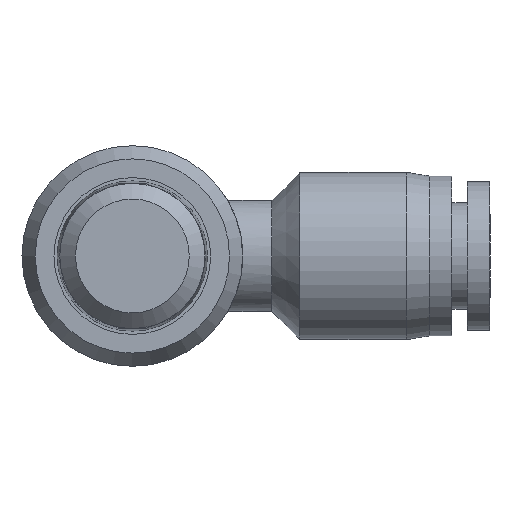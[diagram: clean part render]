
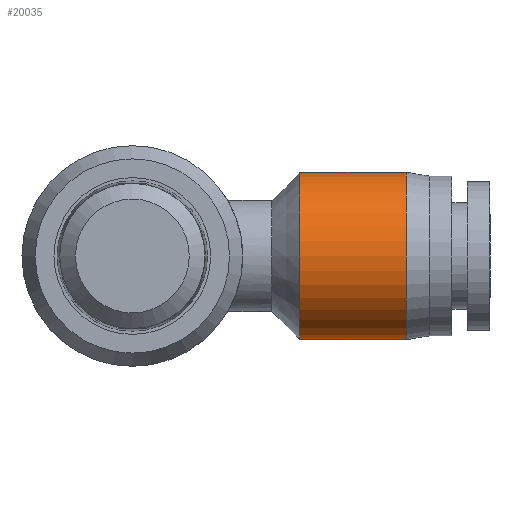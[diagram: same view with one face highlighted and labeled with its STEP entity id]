
A CAD part, front view. The second image highlights one B-rep face of the part: STEP entity #20035.
In plain terms, the highlighted cylindrical face has radius 5.5 mm (diameter 11 mm), a full revolution.
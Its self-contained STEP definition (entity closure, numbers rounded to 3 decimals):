
#20001=CARTESIAN_POINT('',(11.0,5.5,0.0));
#20002=VERTEX_POINT('',#20001);
#20003=CARTESIAN_POINT('',(11.0,0.0,0.0));
#20004=DIRECTION('',(1.0,0.0,0.0));
#20005=DIRECTION('',(0.0,1.0,0.0));
#20006=AXIS2_PLACEMENT_3D('',#20003,#20004,#20005);
#20007=CIRCLE('',#20006,5.5);
#20008=EDGE_CURVE('',#20002,#20002,#20007,.T.);
#20016=CARTESIAN_POINT('',(14.5,0.0,0.0));
#20017=DIRECTION('',(1.0,0.0,0.0));
#20018=DIRECTION('',(0.0,1.0,0.0));
#20019=AXIS2_PLACEMENT_3D('',#20016,#20017,#20018);
#20020=CYLINDRICAL_SURFACE('',#20019,5.5);
#20021=CARTESIAN_POINT('',(18.,5.5,0.0));
#20022=VERTEX_POINT('',#20021);
#20023=CARTESIAN_POINT('',(18.,0.0,0.0));
#20024=DIRECTION('',(1.0,0.0,0.0));
#20025=DIRECTION('',(0.0,1.0,0.0));
#20026=AXIS2_PLACEMENT_3D('',#20023,#20024,#20025);
#20027=CIRCLE('',#20026,5.5);
#20028=EDGE_CURVE('',#20022,#20022,#20027,.T.);
#20029=ORIENTED_EDGE('',*,*,#20028,.F.);
#20030=EDGE_LOOP('',(#20029));
#20031=FACE_OUTER_BOUND('',#20030,.T.);
#20032=ORIENTED_EDGE('',*,*,#20008,.T.);
#20033=EDGE_LOOP('',(#20032));
#20034=FACE_BOUND('',#20033,.T.);
#20035=ADVANCED_FACE('',(#20031,#20034),#20020,.T.);
